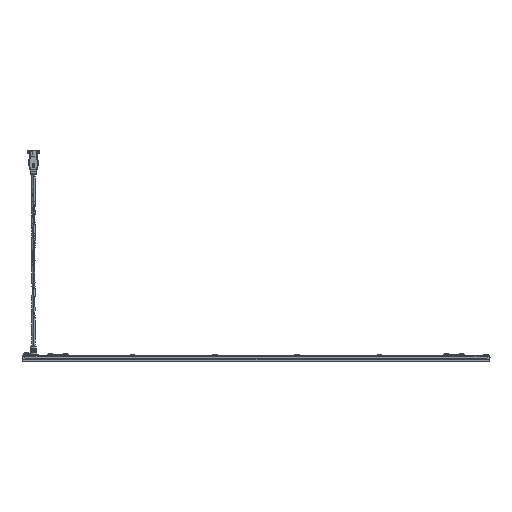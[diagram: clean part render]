
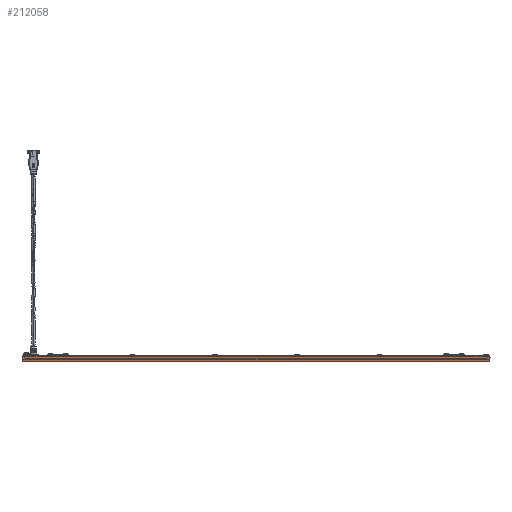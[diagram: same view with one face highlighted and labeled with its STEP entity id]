
A CAD part, front view. The second image highlights one B-rep face of the part: STEP entity #212058.
In plain terms, the highlighted free-form (B-spline) face has degree [3, 3] with [4, 4] control points.
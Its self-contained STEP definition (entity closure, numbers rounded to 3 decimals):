
#82862=DIRECTION('',(-1.,0.,0.));
#82863=VECTOR('',#82862,620.);
#82864=CARTESIAN_POINT('',(310.,-310.,8.206));
#82865=LINE('',#82864,#82863);
#82889=CARTESIAN_POINT('',(310.,-310.,8.206));
#82890=CARTESIAN_POINT('',(310.045,-310.045,
5.638));
#82891=CARTESIAN_POINT('',(310.032,-310.032,
3.068));
#82892=CARTESIAN_POINT('',(310.,-310.,
0.5));
#82899=CARTESIAN_POINT('',(-310.,-310.,
0.5));
#82900=CARTESIAN_POINT('',(-310.032,-310.032,
3.068));
#82901=CARTESIAN_POINT('',(-310.044,-310.044,
5.638));
#82902=CARTESIAN_POINT('',(-310.,-310.,8.206));
#82949=DIRECTION('',(1.,0.,0.));
#82950=VECTOR('',#82949,620.);
#82951=CARTESIAN_POINT('',(-310.,-310.,
0.5));
#82952=LINE('',#82951,#82950);
#97678=VERTEX_POINT('',#82889);
#97679=VERTEX_POINT('',#82892);
#97680=CARTESIAN_POINT('',(-310.,-310.,
0.5));
#97681=VERTEX_POINT('',#97680);
#97682=VERTEX_POINT('',#82902);
#212033=CARTESIAN_POINT('',(-316.177,-309.977,
9.315));
#212034=CARTESIAN_POINT('',(-316.253,-310.052,
6.193));
#212035=CARTESIAN_POINT('',(-316.236,-310.036,
3.068));
#212036=CARTESIAN_POINT('',(-316.193,-309.993,
-0.055));
#212037=CARTESIAN_POINT('',(-105.392,-309.977,
9.315));
#212038=CARTESIAN_POINT('',(-105.417,-310.052,
6.193));
#212039=CARTESIAN_POINT('',(-105.412,-310.036,
3.068));
#212040=CARTESIAN_POINT('',(-105.398,-309.993,
-0.055));
#212041=CARTESIAN_POINT('',(105.392,-309.977,
9.315));
#212042=CARTESIAN_POINT('',(105.418,-310.052,
6.193));
#212043=CARTESIAN_POINT('',(105.412,-310.035,
3.068));
#212044=CARTESIAN_POINT('',(105.398,-309.993,
-0.055));
#212045=CARTESIAN_POINT('',(316.177,-309.977,
9.315));
#212046=CARTESIAN_POINT('',(316.253,-310.052,
6.193));
#212047=CARTESIAN_POINT('',(316.236,-310.035,
3.068));
#212048=CARTESIAN_POINT('',(316.193,-309.993,
-0.055));
#212049=B_SPLINE_SURFACE_WITH_KNOTS('',3,3,((#212033,#212034,#212035,#212036),(
#212037,#212038,#212039,#212040),(#212041,#212042,#212043,#212044),(#212045,
#212046,#212047,#212048)),.UNSPECIFIED.,.F.,.F.,.F.,(4,4),(4,4),(
-0.01,1.01),(-0.144,1.072),.UNSPECIFIED.);
#212050=ORIENTED_EDGE('',*,*,#212026,.F.);
#212051=ORIENTED_EDGE('',*,*,#211923,.T.);
#212053=ORIENTED_EDGE('',*,*,#212052,.F.);
#212055=ORIENTED_EDGE('',*,*,#212054,.T.);
#212056=EDGE_LOOP('',(#212050,#212051,#212053,#212055));
#212057=FACE_OUTER_BOUND('',#212056,.F.);
#212058=ADVANCED_FACE('',(#212057),#212049,.T.);
#82893=B_SPLINE_CURVE_WITH_KNOTS('',3,(#82889,#82890,#82891,#82892),
.UNSPECIFIED.,.F.,.F.,(4,4),(0.,1.),.UNSPECIFIED.);
#82903=B_SPLINE_CURVE_WITH_KNOTS('',3,(#82899,#82900,#82901,#82902),
.UNSPECIFIED.,.F.,.F.,(4,4),(0.,1.),.UNSPECIFIED.);
#211923=EDGE_CURVE('',#97678,#97682,#82865,.T.);
#212026=EDGE_CURVE('',#97678,#97679,#82893,.T.);
#212052=EDGE_CURVE('',#97681,#97682,#82903,.T.);
#212054=EDGE_CURVE('',#97681,#97679,#82952,.T.);
